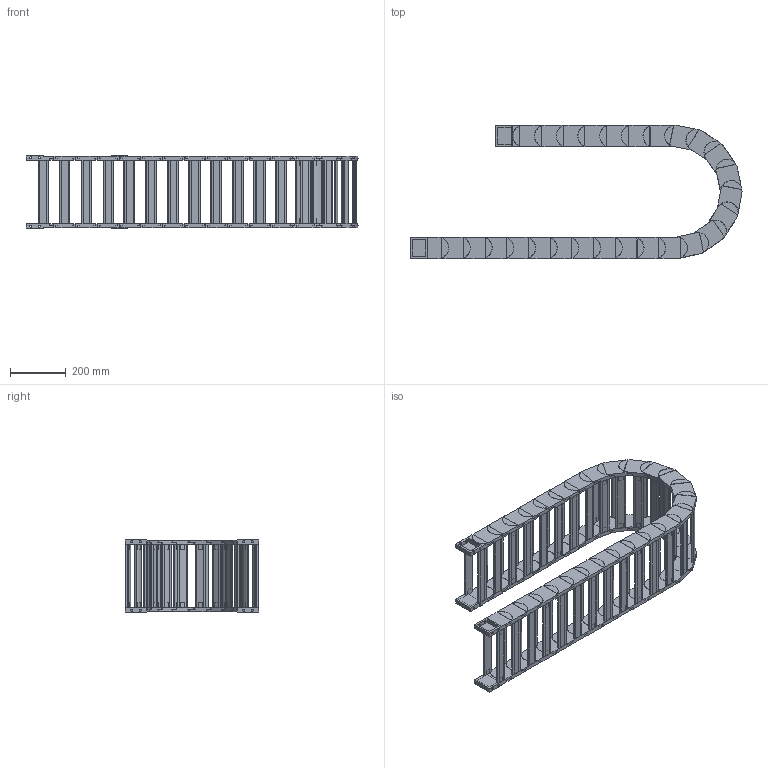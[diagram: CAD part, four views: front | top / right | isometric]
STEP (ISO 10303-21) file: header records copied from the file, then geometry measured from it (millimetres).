
FILE_DESCRIPTION((''),'2;1');
FILE_NAME('HD55-R200-ZPT_ASM','2022-06-17T18:58:22',('admin'),(''),'CREO PARAMETRIC BY PTC INC, 2021164','CREO PARAMETRIC BY PTC INC, 2021164','');
FILE_SCHEMA(('CONFIG_CONTROL_DESIGN','GEOMETRIC_VALIDATION_PROPERTIES_MIM'));
Length unit declared in the file: millimetre
Products named in the file (6): HD-55; 55-500001; HD55_ASM; H55-T1; H55-T2; HD55-R200-ZPT_ASM
Assembly tree (32 placements, depth 3):
  HD55-R200-ZPT_ASM
    HD55_ASM  x26
      HD-55
      55-500001
    H55-T1
    H55-T2
    55-500001  x2
Bounding box: 1186.04 x 475.95 x 257.7 mm (x, y, z)
Volume: 8697431.3 mm3; surface area: 2644853.5 mm2
Topology: 112 solids, 112 shells, 1854 faces, 4758 edges, 3244 vertices
Faces by surface type: plane 1532, cylinder 322
Entity records: 8807 total; most frequent: CARTESIAN_POINT 1300, DIRECTION 1262, ORIENTED_EDGE 1172, EDGE_CURVE 586, AXIS2_PLACEMENT_3D 422, VECTOR 418, LINE 418, VERTEX_POINT 396
